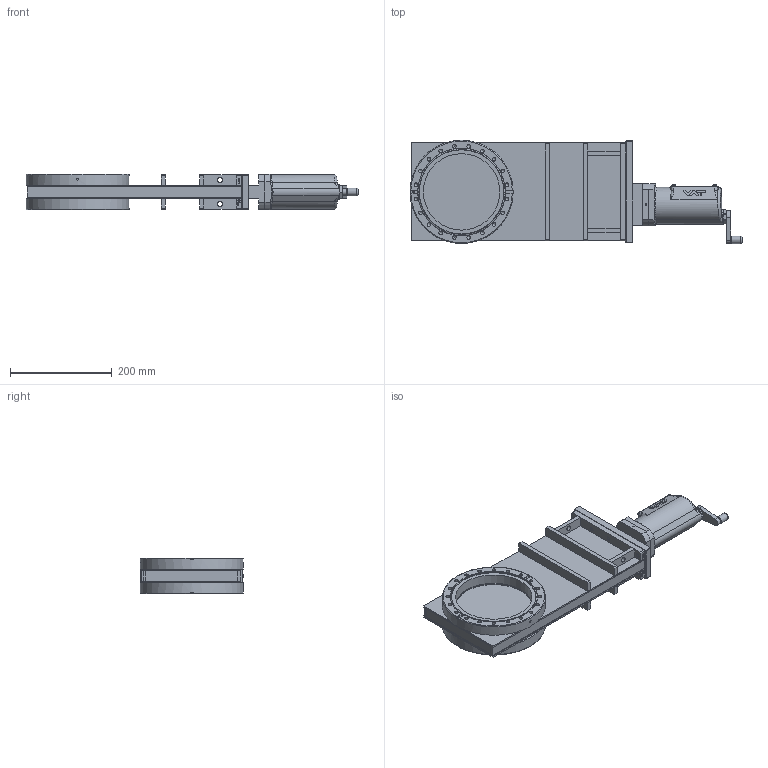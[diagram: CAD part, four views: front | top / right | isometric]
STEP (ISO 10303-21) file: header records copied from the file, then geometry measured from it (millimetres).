
FILE_DESCRIPTION(/* description */ (''),/* implementation_level */ '2;1');
FILE_NAME(/* name */ '1006869306_203.stp',/* time_stamp */ '2016-09-20T09:11:49+02:00',/* author */ (''),/* organization */ (''),/* preprocessor_version */ 'ST-DEVELOPER v15',/* originating_system */ 'SIEMENS PLM Software NX 9.0',/* authorisation */ '');
FILE_SCHEMA (('AP203_CONFIGURATION_CONTROLLED_3D_DESIGN_OF_MECHANICAL_PARTS_AND_ASSEMBLIES_MIM_LF { 1 0 10303 403 2 1 2}'));
Length unit declared in the file: millimetre
Products named in the file (34): 804858_23749ID; 804850_23694ID; 804857_23689ID; 804857_23692ID; 804844_23544ID; 804853_23691ID; 804858_23687ID; 804844_23690ID; 804857_23680ID; 804858_23748ID; 804853_23546ID; 804845_23688ID; 804845_23551ID; 804857_23548ID; 804858_23747ID; n-6024-538.1; 395868; 82480-R1_1.2; 78964-01_01.1; 79149-01.1; 79148-01.1; 69129.1; 72872-01.1_23702ID; n-6099-492.1; 25836-01.1_23683ID; 25836-01.1_23682ID; 218198.1; 93160-01.1; 487420; 82482-r1.2; 82469-r1.1; 804898_MODEL; 307573.2_MODEL; 860908
Assembly tree (46 placements, depth 4):
  860908
    307573.2_MODEL
      804898_MODEL
        804858_23747ID
        804857_23548ID
        804845_23551ID
        804845_23688ID
        804853_23546ID
        804858_23748ID
        804857_23680ID
        804844_23690ID
        804858_23687ID
        804853_23691ID
        804844_23544ID
        804857_23692ID
        804857_23689ID
        804850_23694ID
        804858_23749ID
      25836-01.1_23682ID
      25836-01.1_23683ID
      n-6099-492.1  x2
    82469-r1.1
      72872-01.1_23702ID
      69129.1
    93160-01.1
    218198.1  x10
    82482-r1.2
      79148-01.1
      79149-01.1
      78964-01_01.1
      82480-R1_1.2
    487420
      395868
      n-6024-538.1  x4
Bounding box: 651.77 x 202.75 x 70 mm (x, y, z)
Volume: 2199118.4 mm3; surface area: 758607.9 mm2
Topology: 62 solids, 62 shells, 1004 faces, 2493 edges, 1661 vertices
Faces by surface type: plane 577, cylinder 269, cone 113, bspline 22, torus 15, extrusion 4, sphere 4
Full cylindrical faces by diameter (mm): 3 x1, 3.8 x2, 4 x8, 4.3 x4, 4.625 x2, 6 x2, 6.35 x2, 6.625 x2, 6.66 x10, 6.7 x10, 6.8 x15, 7 x1, 7.145 x40, 8 x24, 9 x10, 10 x4, 13 x10, 14.1 x10, 15 x1, 20 x1, 28 x1, 59.975 x1, 60 x1, 150.1 x5, 167.25 x2, 202.4 x2
Entity records: 31812 total; most frequent: CARTESIAN_POINT 6606, DIRECTION 3440, ORIENTED_EDGE 3384, EDGE_CURVE 1692, AXIS2_PLACEMENT_3D 1314, VERTEX_POINT 1290, EDGE_LOOP 1107, VECTOR 812
